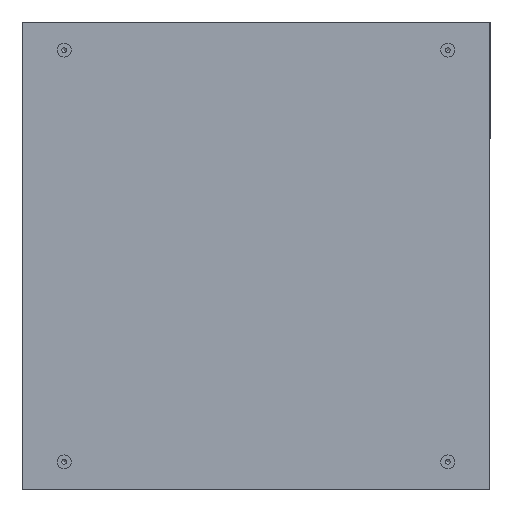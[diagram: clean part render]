
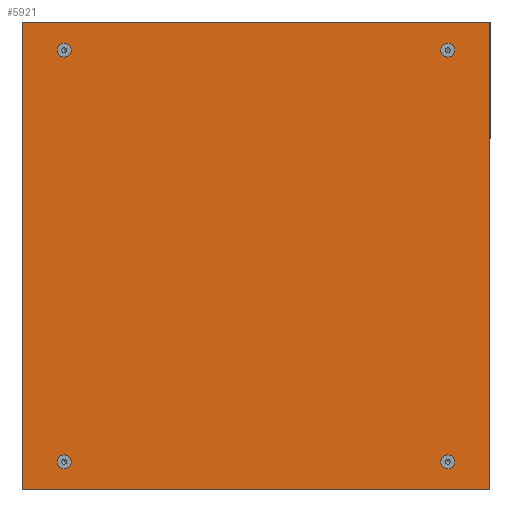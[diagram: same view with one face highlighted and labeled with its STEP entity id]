
A CAD part, left-side view. The second image highlights one B-rep face of the part: STEP entity #5921.
In plain terms, the highlighted planar face has unit normal (-1, 0, 0).
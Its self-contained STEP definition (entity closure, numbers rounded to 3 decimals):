
#495=CIRCLE('',#7830,5.125);
#497=CIRCLE('',#7833,5.125);
#499=CIRCLE('',#7836,5.125);
#500=CIRCLE('',#7865,5.125);
#1731=ORIENTED_EDGE('',*,*,#2751,.T.);
#1732=ORIENTED_EDGE('',*,*,#2752,.T.);
#1733=ORIENTED_EDGE('',*,*,#2753,.T.);
#1734=ORIENTED_EDGE('',*,*,#2754,.T.);
#1735=ORIENTED_EDGE('',*,*,#2649,.F.);
#1736=ORIENTED_EDGE('',*,*,#2651,.F.);
#1737=ORIENTED_EDGE('',*,*,#2653,.F.);
#1738=ORIENTED_EDGE('',*,*,#2755,.F.);
#2649=EDGE_CURVE('',#3267,#3267,#495,.T.);
#2651=EDGE_CURVE('',#3269,#3269,#497,.T.);
#2653=EDGE_CURVE('',#3271,#3271,#499,.T.);
#2751=EDGE_CURVE('',#3346,#3347,#3904,.T.);
#2752=EDGE_CURVE('',#3347,#3348,#3905,.T.);
#2753=EDGE_CURVE('',#3348,#3349,#3906,.T.);
#2754=EDGE_CURVE('',#3349,#3346,#3907,.T.);
#2755=EDGE_CURVE('',#3350,#3350,#500,.T.);
#3267=VERTEX_POINT('',#10903);
#3269=VERTEX_POINT('',#10908);
#3271=VERTEX_POINT('',#10913);
#3346=VERTEX_POINT('',#11114);
#3347=VERTEX_POINT('',#11115);
#3348=VERTEX_POINT('',#11117);
#3349=VERTEX_POINT('',#11119);
#3350=VERTEX_POINT('',#11122);
#3904=LINE('',#11113,#4464);
#3905=LINE('',#11116,#4465);
#3906=LINE('',#11118,#4466);
#3907=LINE('',#11120,#4467);
#4464=VECTOR('',#9339,1000.);
#4465=VECTOR('',#9340,1000.);
#4466=VECTOR('',#9341,1000.);
#4467=VECTOR('',#9342,1000.);
#4880=EDGE_LOOP('',(#1731,#1732,#1733,#1734));
#4881=EDGE_LOOP('',(#1735));
#4882=EDGE_LOOP('',(#1736));
#4883=EDGE_LOOP('',(#1737));
#4884=EDGE_LOOP('',(#1738));
#5312=FACE_BOUND('',#4880,.T.);
#5313=FACE_BOUND('',#4881,.T.);
#5314=FACE_BOUND('',#4882,.T.);
#5315=FACE_BOUND('',#4883,.T.);
#5316=FACE_BOUND('',#4884,.T.);
#5607=PLANE('',#7864);
#5921=ADVANCED_FACE('',(#5312,#5313,#5314,#5315,#5316),#5607,.T.);
#7830=AXIS2_PLACEMENT_3D('',#10902,#9172,#9173);
#7833=AXIS2_PLACEMENT_3D('',#10907,#9178,#9179);
#7836=AXIS2_PLACEMENT_3D('',#10912,#9184,#9185);
#7864=AXIS2_PLACEMENT_3D('',#11112,#9337,#9338);
#7865=AXIS2_PLACEMENT_3D('',#11121,#9343,#9344);
#9172=DIRECTION('',(-1.,0.,0.));
#9173=DIRECTION('',(0.,-1.,0.));
#9178=DIRECTION('',(-1.,0.,0.));
#9179=DIRECTION('',(0.,-1.,0.));
#9184=DIRECTION('',(-1.,0.,0.));
#9185=DIRECTION('',(0.,-1.,0.));
#9337=DIRECTION('',(-1.,0.,0.));
#9338=DIRECTION('',(0.,-1.,0.));
#9339=DIRECTION('',(0.,1.,0.));
#9340=DIRECTION('',(0.,0.,-1.));
#9341=DIRECTION('',(0.,-1.,0.));
#9342=DIRECTION('',(0.,0.,1.));
#9343=DIRECTION('',(-1.,0.,0.));
#9344=DIRECTION('',(0.,-1.,0.));
#10902=CARTESIAN_POINT('',(-1.2,205.,-220.));
#10903=CARTESIAN_POINT('',(-1.2,199.875,-220.));
#10907=CARTESIAN_POINT('',(-1.2,205.,220.));
#10908=CARTESIAN_POINT('',(-1.2,199.875,220.));
#10912=CARTESIAN_POINT('',(-1.2,-205.,-220.));
#10913=CARTESIAN_POINT('',(-1.2,-210.125,-220.));
#11112=CARTESIAN_POINT('',(-1.2,0.,0.));
#11113=CARTESIAN_POINT('',(-1.2,0.,250.));
#11114=CARTESIAN_POINT('',(-1.2,-250.,250.));
#11115=CARTESIAN_POINT('',(-1.2,250.,250.));
#11116=CARTESIAN_POINT('',(-1.2,250.,0.));
#11117=CARTESIAN_POINT('',(-1.2,250.,-250.));
#11118=CARTESIAN_POINT('',(-1.2,0.,-250.));
#11119=CARTESIAN_POINT('',(-1.2,-250.,-250.));
#11120=CARTESIAN_POINT('',(-1.2,-250.,0.));
#11121=CARTESIAN_POINT('',(-1.2,-205.,220.));
#11122=CARTESIAN_POINT('',(-1.2,-210.125,220.));
